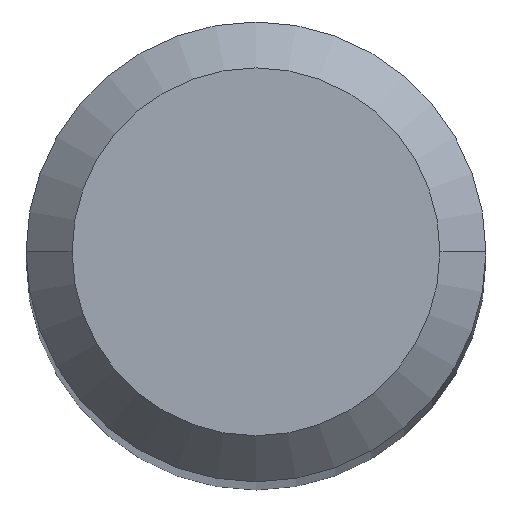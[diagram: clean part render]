
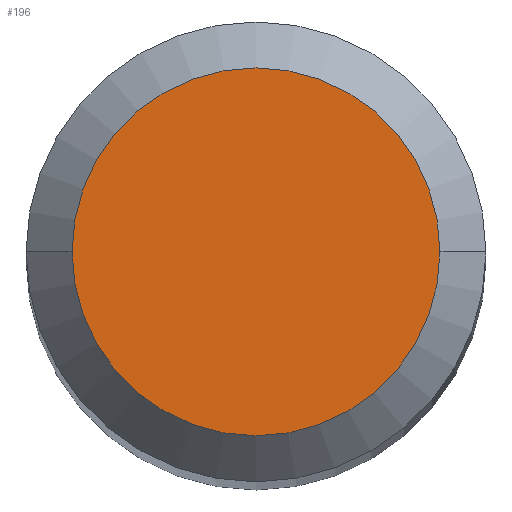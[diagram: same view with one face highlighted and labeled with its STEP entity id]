
A CAD part, top view. The second image highlights one B-rep face of the part: STEP entity #196.
In plain terms, the highlighted planar face has unit normal (0, 0, 1).
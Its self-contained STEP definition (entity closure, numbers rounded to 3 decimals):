
#9 = PLANE ( 'NONE',  #393 ) ;
#18 = EDGE_LOOP ( 'NONE', ( #45, #179 ) ) ;
#45 = ORIENTED_EDGE ( 'NONE', *, *, #476, .F. ) ;
#95 = AXIS2_PLACEMENT_3D ( 'NONE', #155, #102, #105 ) ;
#102 = DIRECTION ( 'NONE',  ( 0., 0., -1. ) ) ;
#105 = DIRECTION ( 'NONE',  ( -1., 0., 0. ) ) ;
#134 = CIRCLE ( 'NONE', #95, 1.6 ) ;
#155 = CARTESIAN_POINT ( 'NONE',  ( 0., 0., 0. ) ) ;
#164 = DIRECTION ( 'NONE',  ( 1., 0., 0. ) ) ;
#179 = ORIENTED_EDGE ( 'NONE', *, *, #339, .F. ) ;
#196 = ADVANCED_FACE ( 'NONE', ( #459 ), #9, .T. ) ;
#199 = DIRECTION ( 'NONE',  ( -1., 0., 0. ) ) ;
#200 = CIRCLE ( 'NONE', #560, 1.6 ) ;
#271 = VERTEX_POINT ( 'NONE', #586 ) ;
#332 = CARTESIAN_POINT ( 'NONE',  ( 1.6, 0., 0. ) ) ;
#339 = EDGE_CURVE ( 'NONE', #376, #271, #134, .T. ) ;
#376 = VERTEX_POINT ( 'NONE', #332 ) ;
#393 = AXIS2_PLACEMENT_3D ( 'NONE', #398, #587, #164 ) ;
#398 = CARTESIAN_POINT ( 'NONE',  ( 0., 1.6, 0. ) ) ;
#459 = FACE_OUTER_BOUND ( 'NONE', #18, .T. ) ;
#476 = EDGE_CURVE ( 'NONE', #271, #376, #200, .T. ) ;
#511 = DIRECTION ( 'NONE',  ( 0., 0., -1. ) ) ;
#514 = CARTESIAN_POINT ( 'NONE',  ( 0., 0., 0. ) ) ;
#560 = AXIS2_PLACEMENT_3D ( 'NONE', #514, #511, #199 ) ;
#586 = CARTESIAN_POINT ( 'NONE',  ( -1.6, 0., 0. ) ) ;
#587 = DIRECTION ( 'NONE',  ( 0., 0., 1. ) ) ;
